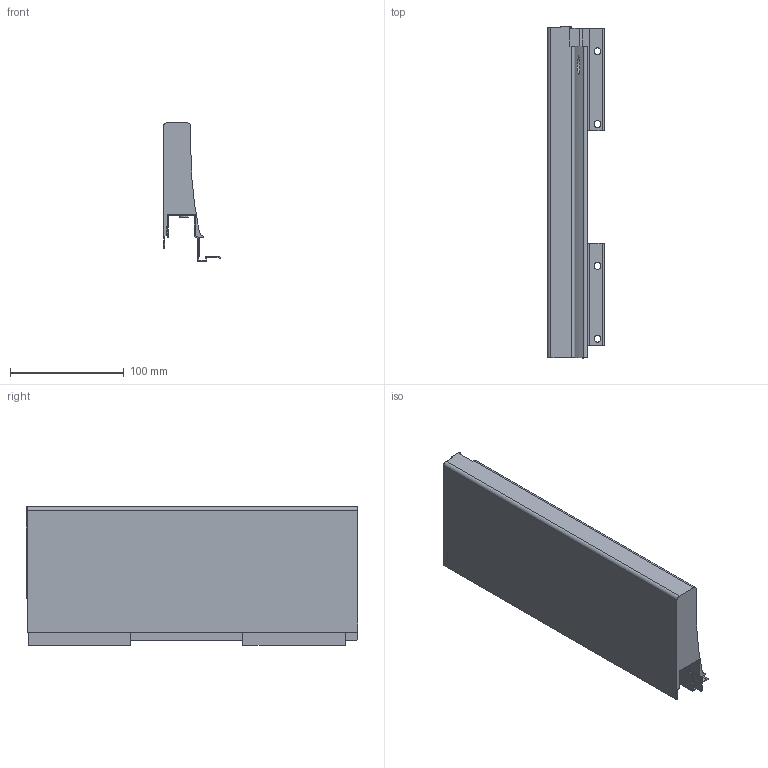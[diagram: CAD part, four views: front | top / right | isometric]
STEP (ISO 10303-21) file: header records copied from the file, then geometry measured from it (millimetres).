
FILE_DESCRIPTION (( 'STEP AP214' ), '1' );
FILE_NAME ('_XP Agantis Dekorseite H127 NL300 LI.step', '2010-07-08T06:22:12', ( 'grass' ), ( '' ), 'SwSTEP 2.0', 'SolidWorks 2010', '' );
FILE_SCHEMA (( 'AUTOMOTIVE_DESIGN' ));
Length unit declared in the file: millimetre
Products named in the file (1): _XP Agantis Dekorseite H127 NL300 LI
Bounding box: 50.01 x 291.5 x 121.5 mm (x, y, z)
Volume: 633443.1 mm3; surface area: 120575.3 mm2
Topology: 1 solids, 1 shells, 119 faces, 343 edges, 225 vertices
Faces by surface type: plane 94, cylinder 25
Entity records: 3999 total; most frequent: CARTESIAN_POINT 775, ORIENTED_EDGE 686, DIRECTION 630, EDGE_CURVE 343, VECTOR 292, LINE 292, VERTEX_POINT 225, AXIS2_PLACEMENT_3D 169
